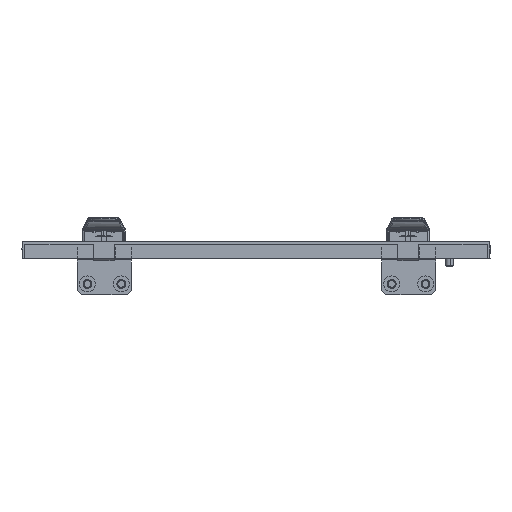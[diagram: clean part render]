
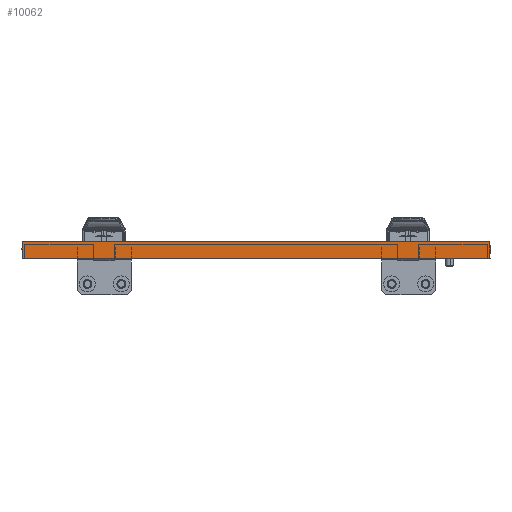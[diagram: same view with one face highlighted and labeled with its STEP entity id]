
A CAD part, left-side view. The second image highlights one B-rep face of the part: STEP entity #10062.
In plain terms, the highlighted planar face has unit normal (-1, 0, 0).
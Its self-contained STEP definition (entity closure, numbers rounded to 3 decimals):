
#195 = FACE_OUTER_BOUND ( 'NONE', #5630, .T. ) ;
#215 = CARTESIAN_POINT ( 'NONE',  ( -152.879, 335.588, 360.68 ) ) ;
#2102 = DIRECTION ( 'NONE',  ( 0., 1., 0. ) ) ;
#2690 = ORIENTED_EDGE ( 'NONE', *, *, #9598, .T. ) ;
#3067 = VECTOR ( 'NONE', #8414, 1000. ) ;
#3540 = CARTESIAN_POINT ( 'NONE',  ( -152.879, 468.913, 358.68 ) ) ;
#4557 = LINE ( 'NONE', #4763, #12050 ) ;
#4763 = CARTESIAN_POINT ( 'NONE',  ( -152.879, 508.588, 363.518 ) ) ;
#4816 = DIRECTION ( 'NONE',  ( 0., 0., 1. ) ) ;
#5421 = EDGE_CURVE ( 'NONE', #7480, #12578, #5581, .T. ) ;
#5581 = LINE ( 'NONE', #17112, #6839 ) ;
#5630 = EDGE_LOOP ( 'NONE', ( #19961, #20206, #13031, #2690 ) ) ;
#5688 = CARTESIAN_POINT ( 'NONE',  ( -152.879, 162.588, 360.68 ) ) ;
#6123 = DIRECTION ( 'NONE',  ( 0., 0., -1. ) ) ;
#6839 = VECTOR ( 'NONE', #18668, 1000. ) ;
#7480 = VERTEX_POINT ( 'NONE', #5688 ) ;
#8414 = DIRECTION ( 'NONE',  ( 0., -1., 0. ) ) ;
#9058 = EDGE_CURVE ( 'NONE', #9915, #13100, #4557, .T. ) ;
#9598 = EDGE_CURVE ( 'NONE', #7480, #9915, #9964, .T. ) ;
#9847 = DIRECTION ( 'NONE',  ( -1., 0., 0. ) ) ;
#9915 = VERTEX_POINT ( 'NONE', #17073 ) ;
#9921 = CARTESIAN_POINT ( 'NONE',  ( -152.879, 162.588, 348.18 ) ) ;
#9964 = LINE ( 'NONE', #215, #19083 ) ;
#10062 = ADVANCED_FACE ( 'NONE', ( #195 ), #19362, .T. ) ;
#12050 = VECTOR ( 'NONE', #6123, 1000. ) ;
#12578 = VERTEX_POINT ( 'NONE', #9921 ) ;
#13031 = ORIENTED_EDGE ( 'NONE', *, *, #5421, .F. ) ;
#13100 = VERTEX_POINT ( 'NONE', #20725 ) ;
#15534 = EDGE_CURVE ( 'NONE', #13100, #12578, #19513, .T. ) ;
#17073 = CARTESIAN_POINT ( 'NONE',  ( -152.879, 508.588, 360.68 ) ) ;
#17112 = CARTESIAN_POINT ( 'NONE',  ( -152.879, 162.588, 363.518 ) ) ;
#17945 = CARTESIAN_POINT ( 'NONE',  ( -152.879, 468.913, 348.18 ) ) ;
#18668 = DIRECTION ( 'NONE',  ( 0., 0., -1. ) ) ;
#18717 = AXIS2_PLACEMENT_3D ( 'NONE', #3540, #9847, #4816 ) ;
#19083 = VECTOR ( 'NONE', #2102, 1000. ) ;
#19362 = PLANE ( 'NONE',  #18717 ) ;
#19513 = LINE ( 'NONE', #17945, #3067 ) ;
#19961 = ORIENTED_EDGE ( 'NONE', *, *, #9058, .T. ) ;
#20206 = ORIENTED_EDGE ( 'NONE', *, *, #15534, .T. ) ;
#20725 = CARTESIAN_POINT ( 'NONE',  ( -152.879, 508.588, 348.18 ) ) ;
